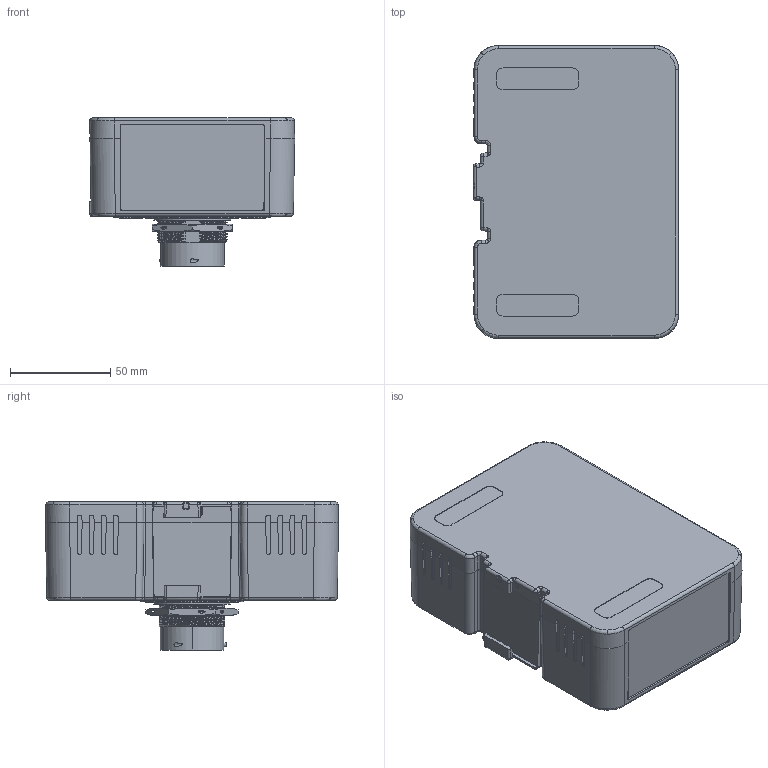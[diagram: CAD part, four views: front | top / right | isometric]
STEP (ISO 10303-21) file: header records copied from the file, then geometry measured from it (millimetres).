
FILE_DESCRIPTION (( 'STEP AP203' ), '1' );
FILE_NAME ('Xbase Wired.STEP', '2024-10-30T15:04:03', ( '' ), ( '' ), 'SwSTEP 2.0', 'SolidWorks 2024', '' );
FILE_SCHEMA (( 'CONFIG_CONTROL_DESIGN' ));
Products named in the file (1): Xbase Wired
Bounding box: 102.3 x 146 x 73.75 mm (x, y, z)
Volume: 689097.8 mm3; surface area: 104418.5 mm2
Topology: 1 solids, 9 shells, 6318 faces, 17552 edges, 11317 vertices
Faces by surface type: plane 4419, cylinder 1079, bspline 562, cone 127, sphere 66, torus 65
Entity records: 234780 total; most frequent: CARTESIAN_POINT 77429, ORIENTED_EDGE 34952, DIRECTION 29279, EDGE_CURVE 17476, LINE 13115, VECTOR 13115, VERTEX_POINT 11317, AXIS2_PLACEMENT_3D 8082
